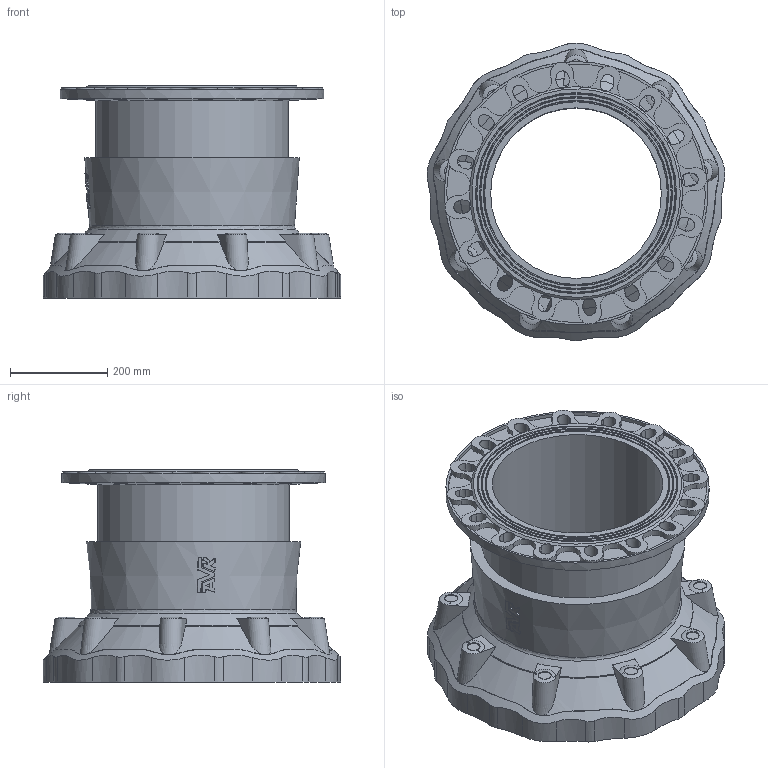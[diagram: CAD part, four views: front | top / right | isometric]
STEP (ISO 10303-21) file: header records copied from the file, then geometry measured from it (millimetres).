
FILE_DESCRIPTION (( 'STEP AP203' ), '1' );
FILE_NAME ('O_633_00_DN350_AA0.step', '2018-07-03T05:46:43', ( 'Windows User' ), ( 'AVK' ), 'SwSTEP 2.0', 'SolidWorks 2012', '' );
FILE_SCHEMA (( 'CONFIG_CONTROL_DESIGN' ));
Length unit declared in the file: millimetre
Products named in the file (1): O_633_00_DN350_AA0
Bounding box: 610.2 x 610.87 x 435.96 mm (x, y, z)
Volume: 33636912.8 mm3; surface area: 1731919.7 mm2
Topology: 1 solids, 1 shells, 536 faces, 1525 edges, 990 vertices
Faces by surface type: cylinder 236, plane 195, bspline 45, cone 38, torus 22
Full cylindrical faces by diameter (mm): 350 x1, 394 x1, 540 x1
Entity records: 23966 total; most frequent: CARTESIAN_POINT 10527, ORIENTED_EDGE 3002, DIRECTION 2632, EDGE_CURVE 1501, AXIS2_PLACEMENT_3D 1077, VERTEX_POINT 985, EDGE_LOOP 586, CIRCLE 586
